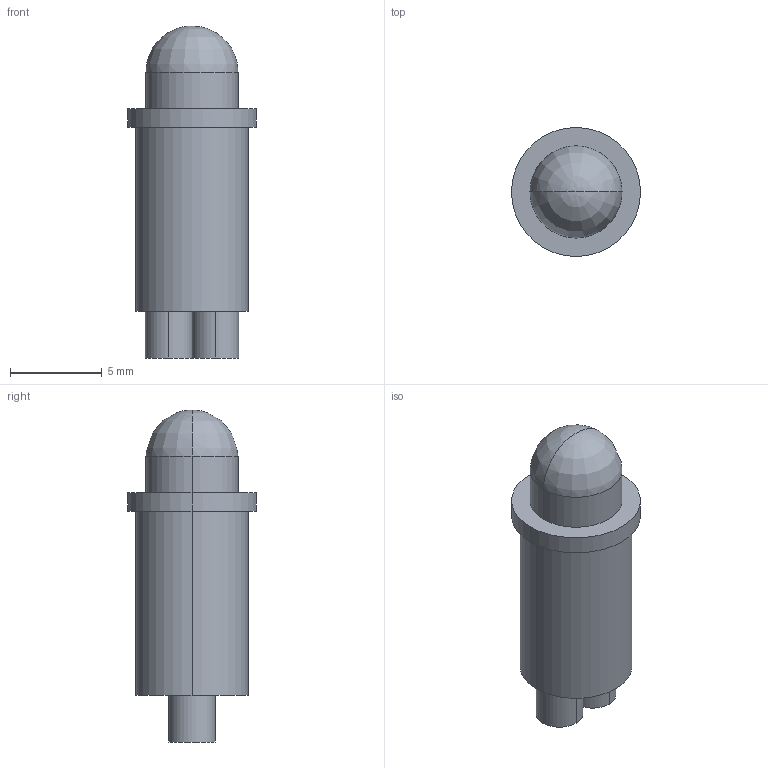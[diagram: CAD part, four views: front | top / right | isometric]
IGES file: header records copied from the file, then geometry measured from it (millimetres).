
Global section: file name: C:\Documents and Settings\Administrator\My Documents\PersonalProject\led.igs; native system: AutoDesk Inventor R2.0 ; preprocessor: AutoDesk Inventor Iges Exporter R2.0; author: No Author specified; organization: No Organization specified; date: 20020115.183544; units: inch
Bounding box: 7.01 x 7.01 x 18.05 mm (x, y, z)
Surface area: 421.8 mm2 (no closed solid volume)
Topology: 0 solids, 0 shells, 20 faces, 78 edges, 76 vertices
Faces by surface type: revolution 14, bspline 6
